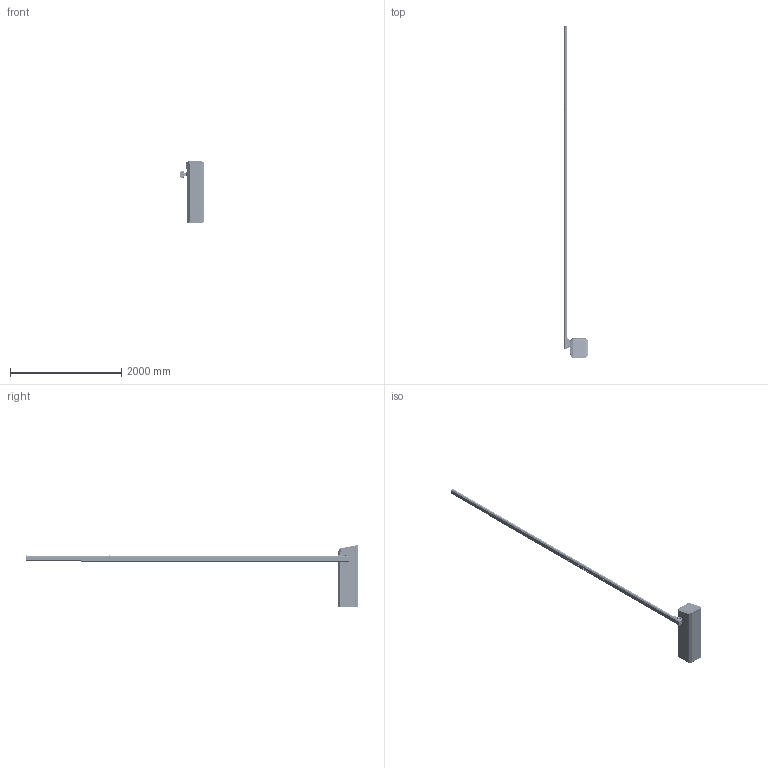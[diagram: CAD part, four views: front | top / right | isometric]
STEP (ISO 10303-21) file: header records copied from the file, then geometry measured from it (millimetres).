
FILE_DESCRIPTION(/* description */ ('Unknown'),/* implementation_level */ '2;1');
FILE_NAME(/* name */ '55860002',/* time_stamp */ '2019-09-18T08:31:46+02:00',/* author */ ('Unknown'),/* organization */ ('Unknown'),/* preprocessor_version */ 'ST-DEVELOPER v16.7',/* originating_system */ 'DEX',/* authorisation */ $);
FILE_SCHEMA (('AUTOMOTIVE_DESIGN {1 0 10303 214 3 1 1}'));
Products named in the file (64): 55860002; 10315939; 20045100; 20045101; 34845067; 20075022; 20075012; 34775000; 20405926; 55860002_Baum_4619; 55155397_4619; 20115008; 34915000; 20180409; 20185227; 20185229; 34595007; 55860002_Baum_4119; 55155397_4119; 55860002_Baum_3119; 55155397_3119; ACCESS-H-R-HUELLE; 10435374; 20435667; 34685017; 34685017a; 34685017c; 34685017b; 34685017d; 20585064; 20435696; 20195087; 10335028; 20695070; 20375010; 20775051; 20165183; 20186029; 10085135; 20695057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
Assembly tree (179 placements, depth 5):
  55860002
    10315939
      20045100
      20045101
      34845067  x4
      20075022
      20075012
      34775000  x4
      20405926
    55860002_Baum_4619
      55155397_4619
        55155397_4619
        20115008  x2
        34915000  x2
        20180409  x2
        20185227  x10
        20185229  x10
        34595007
    55860002_Baum_4119
      55155397_4119
        55155397_4119
        20115008  x2
        34915000  x2
        20185227  x9
        34595007
        20185229  x9
        20180409  x2
    55860002_Baum_3119
      55155397_3119
        55155397_3119
        20115008  x2
        34915000  x2
        20180409  x2
        20185227  x7
        20185229  x7
        34595007
    ACCESS-H-R-HUELLE
      10435374
        20435667
        34685017
          34685017a
          34685017c
          34685017b
          34685017d
        20585064
      20435696
      20195087  x2
      10335028  x2
        20695070
        20375010
      20775051  x2
      20165183
      20186029
      10085135
        20695057
        34745013  x5
        20345347
        20345348
        10085135-Dichtung
      20415077
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Bounding box: 432.24 x 5970.42 x 1116.34 mm (x, y, z)
Volume: 17176404.4 mm3; surface area: 16872201.3 mm2
Topology: 164 solids, 164 shells, 12846 faces, 32298 edges, 19957 vertices
Faces by surface type: plane 5859, cylinder 3665, bspline 2233, torus 569, cone 428, sphere 92
Full cylindrical faces by diameter (mm): 0.5 x1, 1.5 x3, 1.8 x2, 3 x16, 3.2 x1, 3.5 x17, 3.6 x16, 3.65 x4, 3.9 x6, 4.134 x2, 4.773 x5, 4.9 x3, 4.917 x4, 5.5 x2, 6 x10, 6.5 x9, 6.647 x4, 7 x8, 7.1 x2, 8 x4, 8.2 x3, 9 x8, 9.853 x4, 10 x6, 10.1 x4, 10.2 x1, 10.4 x1, 10.5 x4, 11 x2, 12 x8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
Entity records: 224769 total; most frequent: CARTESIAN_POINT 88391, ORIENTED_EDGE 27978, DIRECTION 26331, EDGE_CURVE 13989, AXIS2_PLACEMENT_3D 9357, VERTEX_POINT 8785, LINE 7617, VECTOR 7617
